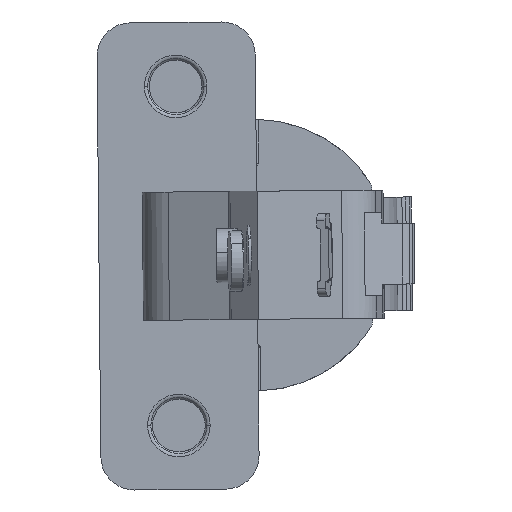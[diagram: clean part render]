
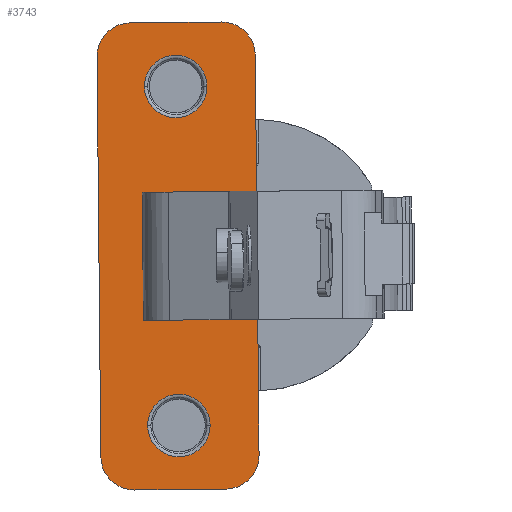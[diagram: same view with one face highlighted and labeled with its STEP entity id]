
A CAD part, left-side view. The second image highlights one B-rep face of the part: STEP entity #3743.
In plain terms, the highlighted planar face has unit normal (-1, 0, 0).
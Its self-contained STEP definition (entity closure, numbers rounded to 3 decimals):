
#69 = DIRECTION ( 'NONE',  ( 0., -1., 0.009 ) ) ;
#195 = CARTESIAN_POINT ( 'NONE',  ( -3., 29.953, -44.715 ) ) ;
#208 = VERTEX_POINT ( 'NONE', #3983 ) ;
#398 = EDGE_CURVE ( 'NONE', #1730, #7275, #6448, .T. ) ;
#454 = DIRECTION ( 'NONE',  ( 0., 1., -0.009 ) ) ;
#504 = EDGE_CURVE ( 'NONE', #7275, #3438, #6947, .T. ) ;
#526 = ORIENTED_EDGE ( 'NONE', *, *, #504, .T. ) ;
#685 = AXIS2_PLACEMENT_3D ( 'NONE', #5470, #4831, #7289 ) ;
#780 = CARTESIAN_POINT ( 'NONE',  ( -3., 36.549, 4.261 ) ) ;
#932 = CIRCLE ( 'NONE', #5759, 4.149 ) ;
#1010 = AXIS2_PLACEMENT_3D ( 'NONE', #780, #2739, #2826 ) ;
#1138 = VERTEX_POINT ( 'NONE', #4043 ) ;
#1191 = DIRECTION ( 'NONE',  ( 0., 0.009, 1. ) ) ;
#1210 = CARTESIAN_POINT ( 'NONE',  ( -3., 40.975, -9.781 ) ) ;
#1237 = AXIS2_PLACEMENT_3D ( 'NONE', #195, #5878, #3417 ) ;
#1339 = CARTESIAN_POINT ( 'NONE',  ( -3., 42.523, 8.242 ) ) ;
#1524 = CIRCLE ( 'NONE', #3673, 4.149 ) ;
#1714 = CARTESIAN_POINT ( 'NONE',  ( -3., 40.276, -40.776 ) ) ;
#1715 = EDGE_CURVE ( 'NONE', #7749, #2340, #5091, .T. ) ;
#1730 = VERTEX_POINT ( 'NONE', #1885 ) ;
#1736 = VECTOR ( 'NONE', #6631, 1000. ) ;
#1761 = CARTESIAN_POINT ( 'NONE',  ( -3., 25.818, -9.639 ) ) ;
#1789 = CARTESIAN_POINT ( 'NONE',  ( -3., 42.565, 12.705 ) ) ;
#1793 = ORIENTED_EDGE ( 'NONE', *, *, #7553, .T. ) ;
#1807 = CIRCLE ( 'NONE', #1010, 4.149 ) ;
#1885 = CARTESIAN_POINT ( 'NONE',  ( -3., 46.489, -44.87 ) ) ;
#1901 = EDGE_CURVE ( 'NONE', #4430, #1730, #6174, .T. ) ;
#1972 = CARTESIAN_POINT ( 'NONE',  ( -3., 40.082, -104.989 ) ) ;
#2057 = DIRECTION ( 'NONE',  ( -1., 0., 0. ) ) ;
#2130 = CARTESIAN_POINT ( 'NONE',  ( -3., 36.127, -40.737 ) ) ;
#2155 = ORIENTED_EDGE ( 'NONE', *, *, #1901, .T. ) ;
#2168 = ORIENTED_EDGE ( 'NONE', *, *, #4978, .T. ) ;
#2331 = CARTESIAN_POINT ( 'NONE',  ( -3., 42.565, 12.705 ) ) ;
#2334 = CARTESIAN_POINT ( 'NONE',  ( -3., 42.009, -46.628 ) ) ;
#2340 = VERTEX_POINT ( 'NONE', #7266 ) ;
#2415 = DIRECTION ( 'NONE',  ( 0., 0., 1. ) ) ;
#2455 = DIRECTION ( 'NONE',  ( 1., 0., 0. ) ) ;
#2458 = EDGE_CURVE ( 'NONE', #2340, #5033, #3809, .T. ) ;
#2468 = VERTEX_POINT ( 'NONE', #2331 ) ;
#2494 = DIRECTION ( 'NONE',  ( 0., 1., -0.009 ) ) ;
#2505 = DIRECTION ( 'NONE',  ( 0., -1., 0.009 ) ) ;
#2506 = DIRECTION ( 'NONE',  ( 0., 0.009, 1. ) ) ;
#2606 = EDGE_CURVE ( 'NONE', #3267, #1138, #1524, .T. ) ;
#2739 = DIRECTION ( 'NONE',  ( 1., 0., 0. ) ) ;
#2740 = ORIENTED_EDGE ( 'NONE', *, *, #3143, .T. ) ;
#2741 = ORIENTED_EDGE ( 'NONE', *, *, #398, .T. ) ;
#2826 = DIRECTION ( 'NONE',  ( 0., -1., 0.009 ) ) ;
#2866 = DIRECTION ( 'NONE',  ( 0., 0.009, 1. ) ) ;
#3016 = CARTESIAN_POINT ( 'NONE',  ( -3., 25.659, -26.638 ) ) ;
#3042 = CARTESIAN_POINT ( 'NONE',  ( -3., 25.659, -26.638 ) ) ;
#3070 = VECTOR ( 'NONE', #2866, 1000. ) ;
#3143 = EDGE_CURVE ( 'NONE', #5718, #6689, #3378, .T. ) ;
#3239 = ORIENTED_EDGE ( 'NONE', *, *, #4368, .F. ) ;
#3267 = VERTEX_POINT ( 'NONE', #4227 ) ;
#3282 = CIRCLE ( 'NONE', #4503, 4.149 ) ;
#3286 = DIRECTION ( 'NONE',  ( -1., 0., 0. ) ) ;
#3321 = CARTESIAN_POINT ( 'NONE',  ( -3., 29.912, -49.179 ) ) ;
#3360 = EDGE_LOOP ( 'NONE', ( #6826, #3239 ) ) ;
#3367 = ORIENTED_EDGE ( 'NONE', *, *, #2606, .T. ) ;
#3378 = LINE ( 'NONE', #1972, #4110 ) ;
#3417 = DIRECTION ( 'NONE',  ( 0., -1., 0.009 ) ) ;
#3438 = VERTEX_POINT ( 'NONE', #3321 ) ;
#3538 = AXIS2_PLACEMENT_3D ( 'NONE', #2334, #7656, #2415 ) ;
#3547 = EDGE_CURVE ( 'NONE', #1138, #3267, #1807, .T. ) ;
#3608 = CARTESIAN_POINT ( 'NONE',  ( -3., 40.815, -26.78 ) ) ;
#3624 = CARTESIAN_POINT ( 'NONE',  ( -3., 36.549, 4.261 ) ) ;
#3673 = AXIS2_PLACEMENT_3D ( 'NONE', #3624, #2455, #6847 ) ;
#3732 = VECTOR ( 'NONE', #2506, 1000. ) ;
#3743 = ADVANCED_FACE ( 'NONE', ( #6293, #6213, #5029 ), #5071, .T. ) ;
#3787 = CIRCLE ( 'NONE', #1237, 4.464 ) ;
#3809 = CIRCLE ( 'NONE', #4478, 4.464 ) ;
#3878 = ORIENTED_EDGE ( 'NONE', *, *, #7415, .F. ) ;
#3983 = CARTESIAN_POINT ( 'NONE',  ( -3., 31.979, -40.698 ) ) ;
#4043 = CARTESIAN_POINT ( 'NONE',  ( -3., 32.401, 4.3 ) ) ;
#4110 = VECTOR ( 'NONE', #1191, 1000. ) ;
#4227 = CARTESIAN_POINT ( 'NONE',  ( -3., 40.698, 4.222 ) ) ;
#4276 = CARTESIAN_POINT ( 'NONE',  ( -3., 29.912, -49.179 ) ) ;
#4368 = EDGE_CURVE ( 'NONE', #6626, #208, #3282, .T. ) ;
#4430 = VERTEX_POINT ( 'NONE', #6060 ) ;
#4456 = ORIENTED_EDGE ( 'NONE', *, *, #1715, .T. ) ;
#4467 = ORIENTED_EDGE ( 'NONE', *, *, #6515, .F. ) ;
#4478 = AXIS2_PLACEMENT_3D ( 'NONE', #6755, #6118, #5534 ) ;
#4503 = AXIS2_PLACEMENT_3D ( 'NONE', #7294, #5889, #4755 ) ;
#4527 = CARTESIAN_POINT ( 'NONE',  ( -3., 25.49, -44.673 ) ) ;
#4661 = VERTEX_POINT ( 'NONE', #4527 ) ;
#4738 = CARTESIAN_POINT ( 'NONE',  ( -3., 46.908, -0.232 ) ) ;
#4755 = DIRECTION ( 'NONE',  ( 0., -1., 0.009 ) ) ;
#4831 = DIRECTION ( 'NONE',  ( -1., 0., 0. ) ) ;
#4872 = EDGE_CURVE ( 'NONE', #3438, #4661, #3787, .T. ) ;
#4896 = LINE ( 'NONE', #6707, #3070 ) ;
#4963 = CARTESIAN_POINT ( 'NONE',  ( -3., 26.004, 10.197 ) ) ;
#4978 = EDGE_CURVE ( 'NONE', #5033, #2468, #6893, .T. ) ;
#5029 = FACE_BOUND ( 'NONE', #3360, .T. ) ;
#5033 = VERTEX_POINT ( 'NONE', #7372 ) ;
#5071 = PLANE ( 'NONE',  #3538 ) ;
#5091 = LINE ( 'NONE', #4963, #3732 ) ;
#5470 = CARTESIAN_POINT ( 'NONE',  ( -3., 42.026, -44.829 ) ) ;
#5534 = DIRECTION ( 'NONE',  ( 0., -1., 0.009 ) ) ;
#5718 = VERTEX_POINT ( 'NONE', #3608 ) ;
#5759 = AXIS2_PLACEMENT_3D ( 'NONE', #2130, #2057, #6000 ) ;
#5878 = DIRECTION ( 'NONE',  ( -1., 0., 0. ) ) ;
#5889 = DIRECTION ( 'NONE',  ( -1., 0., 0. ) ) ;
#5997 = EDGE_CURVE ( 'NONE', #208, #6626, #932, .T. ) ;
#6000 = DIRECTION ( 'NONE',  ( 0., -1., 0.009 ) ) ;
#6027 = EDGE_LOOP ( 'NONE', ( #8140, #3367 ) ) ;
#6060 = CARTESIAN_POINT ( 'NONE',  ( -3., 46.987, 8.2 ) ) ;
#6118 = DIRECTION ( 'NONE',  ( -1., 0., 0. ) ) ;
#6174 = LINE ( 'NONE', #4738, #1736 ) ;
#6192 = AXIS2_PLACEMENT_3D ( 'NONE', #1339, #3286, #69 ) ;
#6204 = VECTOR ( 'NONE', #2505, 1000. ) ;
#6213 = FACE_BOUND ( 'NONE', #6027, .T. ) ;
#6222 = LINE ( 'NONE', #1761, #6313 ) ;
#6293 = FACE_OUTER_BOUND ( 'NONE', #7915, .T. ) ;
#6313 = VECTOR ( 'NONE', #454, 1000. ) ;
#6448 = CIRCLE ( 'NONE', #685, 4.464 ) ;
#6515 = EDGE_CURVE ( 'NONE', #7749, #6689, #6222, .T. ) ;
#6586 = VERTEX_POINT ( 'NONE', #3042 ) ;
#6626 = VERTEX_POINT ( 'NONE', #1714 ) ;
#6631 = DIRECTION ( 'NONE',  ( 0., -0.009, -1. ) ) ;
#6689 = VERTEX_POINT ( 'NONE', #1210 ) ;
#6707 = CARTESIAN_POINT ( 'NONE',  ( -3., 26.004, 10.197 ) ) ;
#6755 = CARTESIAN_POINT ( 'NONE',  ( -3., 30.451, 8.355 ) ) ;
#6826 = ORIENTED_EDGE ( 'NONE', *, *, #5997, .F. ) ;
#6847 = DIRECTION ( 'NONE',  ( 0., -1., 0.009 ) ) ;
#6870 = LINE ( 'NONE', #3016, #7124 ) ;
#6893 = LINE ( 'NONE', #1789, #7845 ) ;
#6904 = CARTESIAN_POINT ( 'NONE',  ( -3., 25.818, -9.639 ) ) ;
#6924 = EDGE_CURVE ( 'NONE', #4661, #6586, #4896, .T. ) ;
#6947 = LINE ( 'NONE', #4276, #6204 ) ;
#6951 = ORIENTED_EDGE ( 'NONE', *, *, #6924, .T. ) ;
#7124 = VECTOR ( 'NONE', #8201, 1000. ) ;
#7266 = CARTESIAN_POINT ( 'NONE',  ( -3., 25.988, 8.397 ) ) ;
#7275 = VERTEX_POINT ( 'NONE', #7982 ) ;
#7289 = DIRECTION ( 'NONE',  ( 0., -1., 0.009 ) ) ;
#7294 = CARTESIAN_POINT ( 'NONE',  ( -3., 36.127, -40.737 ) ) ;
#7372 = CARTESIAN_POINT ( 'NONE',  ( -3., 30.493, 12.818 ) ) ;
#7415 = EDGE_CURVE ( 'NONE', #5718, #6586, #6870, .T. ) ;
#7552 = CIRCLE ( 'NONE', #6192, 4.464 ) ;
#7553 = EDGE_CURVE ( 'NONE', #2468, #4430, #7552, .T. ) ;
#7656 = DIRECTION ( 'NONE',  ( -1., 0., 0. ) ) ;
#7749 = VERTEX_POINT ( 'NONE', #6904 ) ;
#7797 = ORIENTED_EDGE ( 'NONE', *, *, #4872, .T. ) ;
#7845 = VECTOR ( 'NONE', #2494, 1000. ) ;
#7915 = EDGE_LOOP ( 'NONE', ( #4456, #7952, #2168, #1793, #2155, #2741, #526, #7797, #6951, #3878, #2740, #4467 ) ) ;
#7952 = ORIENTED_EDGE ( 'NONE', *, *, #2458, .T. ) ;
#7982 = CARTESIAN_POINT ( 'NONE',  ( -3., 41.984, -49.292 ) ) ;
#8140 = ORIENTED_EDGE ( 'NONE', *, *, #3547, .T. ) ;
#8201 = DIRECTION ( 'NONE',  ( 0., -1., 0.009 ) ) ;
